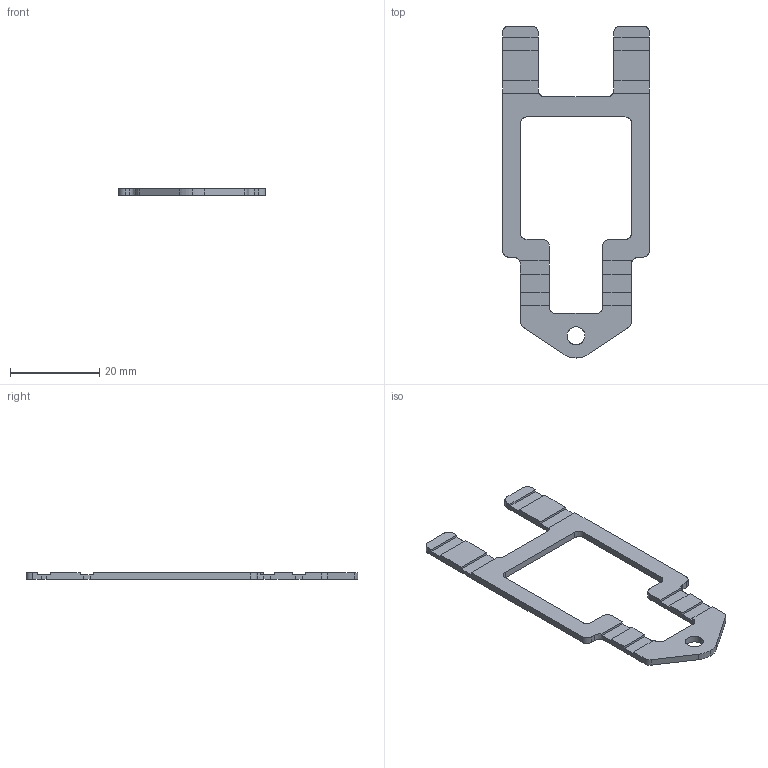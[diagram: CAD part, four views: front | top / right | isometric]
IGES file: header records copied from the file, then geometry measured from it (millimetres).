
Global section: file name: C:\Users\Knabe\Documents\Classes\8 Semester 8\DARwIn\Deliverables\DARwIn OP\DARwIn OP Part Files\CAD 2D\2D IGS\8_PR13_B_FRM_CVR_BAT.igs; native system: NX V7.0; preprocessor: SIEMENS PLM Software NX 7.0; date: 20110525.172511; units: millimetre
Bounding box: 33 x 74.54 x 1.5 mm (x, y, z)
Surface area: 2655.1 mm2 (no closed solid volume)
Topology: 0 solids, 0 shells, 122 faces, 707 edges, 732 vertices
Faces by surface type: bspline 122
